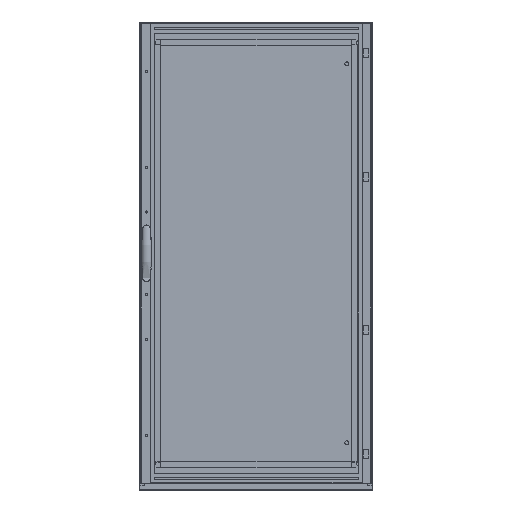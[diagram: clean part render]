
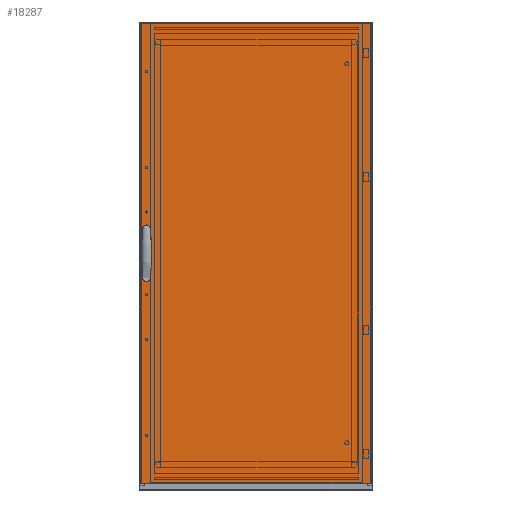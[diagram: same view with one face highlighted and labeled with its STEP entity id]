
A CAD part, top view. The second image highlights one B-rep face of the part: STEP entity #18287.
In plain terms, the highlighted planar face has unit normal (0, 0, 1) as drawn and (0, 0, -1) by its records, which use the part's own axes.
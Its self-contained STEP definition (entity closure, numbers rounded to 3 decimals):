
#275=CIRCLE('',#20319,2.6);
#276=CIRCLE('',#20320,2.6);
#2357=ORIENTED_EDGE('',*,*,#6611,.T.);
#2358=ORIENTED_EDGE('',*,*,#6612,.T.);
#2359=ORIENTED_EDGE('',*,*,#6613,.T.);
#2360=ORIENTED_EDGE('',*,*,#6614,.T.);
#2361=ORIENTED_EDGE('',*,*,#6615,.T.);
#2362=ORIENTED_EDGE('',*,*,#6616,.T.);
#2363=ORIENTED_EDGE('',*,*,#6617,.T.);
#2364=ORIENTED_EDGE('',*,*,#6618,.T.);
#2365=ORIENTED_EDGE('',*,*,#6619,.T.);
#2366=ORIENTED_EDGE('',*,*,#6620,.T.);
#2367=ORIENTED_EDGE('',*,*,#6621,.T.);
#2368=ORIENTED_EDGE('',*,*,#6622,.T.);
#2369=ORIENTED_EDGE('',*,*,#6623,.T.);
#2370=ORIENTED_EDGE('',*,*,#6624,.T.);
#2371=ORIENTED_EDGE('',*,*,#6625,.T.);
#2372=ORIENTED_EDGE('',*,*,#6626,.T.);
#2373=ORIENTED_EDGE('',*,*,#6627,.T.);
#2374=ORIENTED_EDGE('',*,*,#6628,.F.);
#2375=ORIENTED_EDGE('',*,*,#6629,.F.);
#2376=ORIENTED_EDGE('',*,*,#6630,.T.);
#2377=ORIENTED_EDGE('',*,*,#6631,.T.);
#2378=ORIENTED_EDGE('',*,*,#6632,.T.);
#6611=EDGE_CURVE('',#8892,#8893,#10798,.T.);
#6612=EDGE_CURVE('',#8893,#8894,#10799,.T.);
#6613=EDGE_CURVE('',#8894,#8895,#10800,.T.);
#6614=EDGE_CURVE('',#8895,#8896,#10801,.T.);
#6615=EDGE_CURVE('',#8896,#8897,#10802,.T.);
#6616=EDGE_CURVE('',#8897,#8898,#10803,.T.);
#6617=EDGE_CURVE('',#8898,#8899,#10804,.T.);
#6618=EDGE_CURVE('',#8899,#8900,#10805,.T.);
#6619=EDGE_CURVE('',#8900,#8901,#10806,.T.);
#6620=EDGE_CURVE('',#8901,#8902,#10807,.T.);
#6621=EDGE_CURVE('',#8902,#8903,#10808,.T.);
#6622=EDGE_CURVE('',#8903,#8904,#10809,.T.);
#6623=EDGE_CURVE('',#8904,#8905,#10810,.T.);
#6624=EDGE_CURVE('',#8905,#8906,#10811,.T.);
#6625=EDGE_CURVE('',#8906,#8907,#10812,.T.);
#6626=EDGE_CURVE('',#8907,#8892,#10813,.T.);
#6627=EDGE_CURVE('',#8908,#8909,#10814,.T.);
#6628=EDGE_CURVE('',#8910,#8909,#10815,.T.);
#6629=EDGE_CURVE('',#8911,#8910,#10816,.T.);
#6630=EDGE_CURVE('',#8911,#8908,#10817,.T.);
#6631=EDGE_CURVE('',#8912,#8912,#275,.T.);
#6632=EDGE_CURVE('',#8913,#8913,#276,.T.);
#8892=VERTEX_POINT('',#28013);
#8893=VERTEX_POINT('',#28014);
#8894=VERTEX_POINT('',#28016);
#8895=VERTEX_POINT('',#28018);
#8896=VERTEX_POINT('',#28020);
#8897=VERTEX_POINT('',#28022);
#8898=VERTEX_POINT('',#28024);
#8899=VERTEX_POINT('',#28026);
#8900=VERTEX_POINT('',#28028);
#8901=VERTEX_POINT('',#28030);
#8902=VERTEX_POINT('',#28032);
#8903=VERTEX_POINT('',#28034);
#8904=VERTEX_POINT('',#28036);
#8905=VERTEX_POINT('',#28038);
#8906=VERTEX_POINT('',#28040);
#8907=VERTEX_POINT('',#28042);
#8908=VERTEX_POINT('',#28045);
#8909=VERTEX_POINT('',#28046);
#8910=VERTEX_POINT('',#28048);
#8911=VERTEX_POINT('',#28050);
#8912=VERTEX_POINT('',#28053);
#8913=VERTEX_POINT('',#28055);
#10798=LINE('',#28012,#13074);
#10799=LINE('',#28015,#13075);
#10800=LINE('',#28017,#13076);
#10801=LINE('',#28019,#13077);
#10802=LINE('',#28021,#13078);
#10803=LINE('',#28023,#13079);
#10804=LINE('',#28025,#13080);
#10805=LINE('',#28027,#13081);
#10806=LINE('',#28029,#13082);
#10807=LINE('',#28031,#13083);
#10808=LINE('',#28033,#13084);
#10809=LINE('',#28035,#13085);
#10810=LINE('',#28037,#13086);
#10811=LINE('',#28039,#13087);
#10812=LINE('',#28041,#13088);
#10813=LINE('',#28043,#13089);
#10814=LINE('',#28044,#13090);
#10815=LINE('',#28047,#13091);
#10816=LINE('',#28049,#13092);
#10817=LINE('',#28051,#13093);
#13074=VECTOR('',#22896,1000.);
#13075=VECTOR('',#22897,1000.);
#13076=VECTOR('',#22898,1000.);
#13077=VECTOR('',#22899,1000.);
#13078=VECTOR('',#22900,1000.);
#13079=VECTOR('',#22901,1000.);
#13080=VECTOR('',#22902,1000.);
#13081=VECTOR('',#22903,1000.);
#13082=VECTOR('',#22904,1000.);
#13083=VECTOR('',#22905,1000.);
#13084=VECTOR('',#22906,1000.);
#13085=VECTOR('',#22907,1000.);
#13086=VECTOR('',#22908,1000.);
#13087=VECTOR('',#22909,1000.);
#13088=VECTOR('',#22910,1000.);
#13089=VECTOR('',#22911,1000.);
#13090=VECTOR('',#22912,1000.);
#13091=VECTOR('',#22913,1000.);
#13092=VECTOR('',#22914,1000.);
#13093=VECTOR('',#22915,1000.);
#15063=EDGE_LOOP('',(#2357,#2358,#2359,#2360,#2361,#2362,#2363,#2364,#2365,
#2366,#2367,#2368,#2369,#2370,#2371,#2372));
#15064=EDGE_LOOP('',(#2373,#2374,#2375,#2376));
#15065=EDGE_LOOP('',(#2377));
#15066=EDGE_LOOP('',(#2378));
#16295=FACE_BOUND('',#15063,.T.);
#16296=FACE_BOUND('',#15064,.T.);
#16297=FACE_BOUND('',#15065,.T.);
#16298=FACE_BOUND('',#15066,.T.);
#17357=PLANE('',#20318);
#18287=ADVANCED_FACE('',(#16295,#16296,#16297,#16298),#17357,.F.);
#20318=AXIS2_PLACEMENT_3D('',#28011,#22894,#22895);
#20319=AXIS2_PLACEMENT_3D('',#28052,#22916,#22917);
#20320=AXIS2_PLACEMENT_3D('',#28054,#22918,#22919);
#22894=DIRECTION('',(0.,0.,1.));
#22895=DIRECTION('',(1.,0.,0.));
#22896=DIRECTION('',(0.,-1.,0.));
#22897=DIRECTION('',(0.342,-0.94,0.));
#22898=DIRECTION('',(1.,0.,0.));
#22899=DIRECTION('',(0.,1.,0.));
#22900=DIRECTION('',(1.,0.,0.));
#22901=DIRECTION('',(0.,-1.,0.));
#22902=DIRECTION('',(1.,0.,0.));
#22903=DIRECTION('',(0.342,0.94,0.));
#22904=DIRECTION('',(0.,1.,0.));
#22905=DIRECTION('',(-0.342,0.94,0.));
#22906=DIRECTION('',(-1.,0.,0.));
#22907=DIRECTION('',(0.,-1.,0.));
#22908=DIRECTION('',(-1.,0.,0.));
#22909=DIRECTION('',(0.,1.,0.));
#22910=DIRECTION('',(-1.,0.,0.));
#22911=DIRECTION('',(-0.342,-0.94,0.));
#22912=DIRECTION('',(-1.,0.,0.));
#22913=DIRECTION('',(0.,-1.,0.));
#22914=DIRECTION('',(-1.,0.,0.));
#22915=DIRECTION('',(0.,-1.,0.));
#22916=DIRECTION('',(0.,0.,1.));
#22917=DIRECTION('',(1.,0.,0.));
#22918=DIRECTION('',(0.,0.,1.));
#22919=DIRECTION('',(1.,0.,0.));
#28011=CARTESIAN_POINT('',(396.5,1582.,-16.8));
#28012=CARTESIAN_POINT('',(362.95,856.256,-16.8));
#28013=CARTESIAN_POINT('',(362.95,856.256,-16.8));
#28014=CARTESIAN_POINT('',(362.95,725.744,-16.8));
#28015=CARTESIAN_POINT('',(362.95,725.744,-16.8));
#28016=CARTESIAN_POINT('',(364.95,720.25,-16.8));
#28017=CARTESIAN_POINT('',(364.95,720.25,-16.8));
#28018=CARTESIAN_POINT('',(370.2,720.25,-16.8));
#28019=CARTESIAN_POINT('',(370.2,720.25,-16.8));
#28020=CARTESIAN_POINT('',(370.2,728.,-16.8));
#28021=CARTESIAN_POINT('',(370.2,728.,-16.8));
#28022=CARTESIAN_POINT('',(381.2,728.,-16.8));
#28023=CARTESIAN_POINT('',(381.2,728.,-16.8));
#28024=CARTESIAN_POINT('',(381.2,720.25,-16.8));
#28025=CARTESIAN_POINT('',(381.2,720.25,-16.8));
#28026=CARTESIAN_POINT('',(386.45,720.25,-16.8));
#28027=CARTESIAN_POINT('',(386.45,720.25,-16.8));
#28028=CARTESIAN_POINT('',(388.45,725.744,-16.8));
#28029=CARTESIAN_POINT('',(388.45,725.744,-16.8));
#28030=CARTESIAN_POINT('',(388.45,856.256,-16.8));
#28031=CARTESIAN_POINT('',(388.45,856.256,-16.8));
#28032=CARTESIAN_POINT('',(386.45,861.75,-16.8));
#28033=CARTESIAN_POINT('',(386.45,861.75,-16.8));
#28034=CARTESIAN_POINT('',(381.2,861.75,-16.8));
#28035=CARTESIAN_POINT('',(381.2,861.75,-16.8));
#28036=CARTESIAN_POINT('',(381.2,854.,-16.8));
#28037=CARTESIAN_POINT('',(381.2,854.,-16.8));
#28038=CARTESIAN_POINT('',(370.2,854.,-16.8));
#28039=CARTESIAN_POINT('',(370.2,854.,-16.8));
#28040=CARTESIAN_POINT('',(370.2,861.75,-16.8));
#28041=CARTESIAN_POINT('',(370.2,861.75,-16.8));
#28042=CARTESIAN_POINT('',(364.95,861.75,-16.8));
#28043=CARTESIAN_POINT('',(364.95,861.75,-16.8));
#28044=CARTESIAN_POINT('',(396.5,0.,-16.8));
#28045=CARTESIAN_POINT('',(396.5,0.,-16.8));
#28046=CARTESIAN_POINT('',(-396.5,0.,-16.8));
#28047=CARTESIAN_POINT('',(-396.5,1582.,-16.8));
#28048=CARTESIAN_POINT('',(-396.5,1582.,-16.8));
#28049=CARTESIAN_POINT('',(396.5,1582.,-16.8));
#28050=CARTESIAN_POINT('',(396.5,1582.,-16.8));
#28051=CARTESIAN_POINT('',(396.5,1582.,-16.8));
#28052=CARTESIAN_POINT('',(375.7,861.,-16.8));
#28053=CARTESIAN_POINT('',(378.3,861.,-16.8));
#28054=CARTESIAN_POINT('',(375.7,721.,-16.8));
#28055=CARTESIAN_POINT('',(378.3,721.,-16.8));
